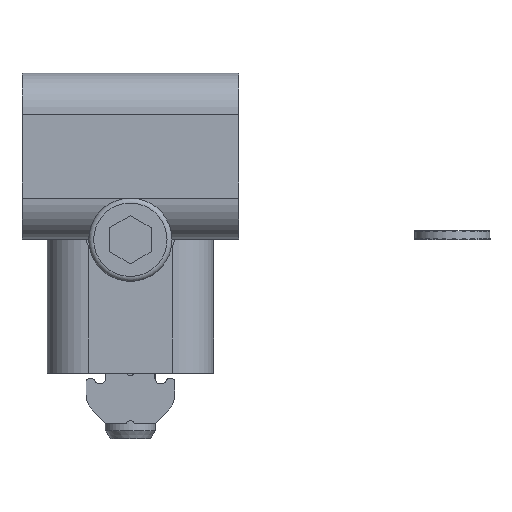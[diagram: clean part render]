
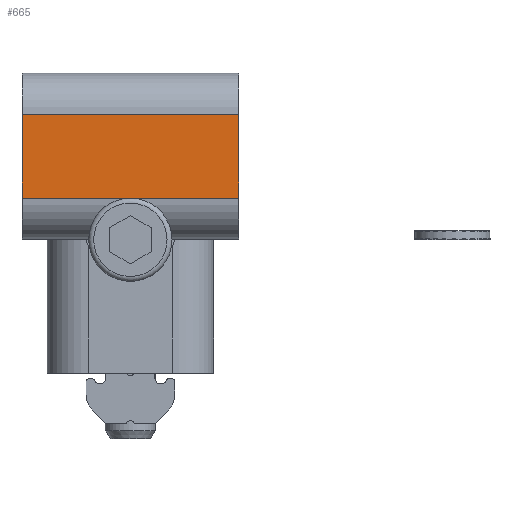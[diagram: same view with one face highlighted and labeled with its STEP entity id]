
A CAD part, left-side view. The second image highlights one B-rep face of the part: STEP entity #665.
In plain terms, the highlighted planar face has unit normal (-1, 0, 0).
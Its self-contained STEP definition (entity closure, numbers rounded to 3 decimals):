
#665 = ADVANCED_FACE( '', ( #1343 ), #1344, .F. );
#1343 = FACE_OUTER_BOUND( '', #2027, .T. );
#1344 = PLANE( '', #2028 );
#2027 = EDGE_LOOP( '', ( #4145, #4146, #4147, #4148 ) );
#2028 = AXIS2_PLACEMENT_3D( '', #4149, #4150, #4151 );
#4145 = ORIENTED_EDGE( '', *, *, #4521, .T. );
#4146 = ORIENTED_EDGE( '', *, *, #4358, .T. );
#4147 = ORIENTED_EDGE( '', *, *, #4929, .F. );
#4148 = ORIENTED_EDGE( '', *, *, #5097, .T. );
#4149 = CARTESIAN_POINT( '', ( -20., 13., 20. ) );
#4150 = DIRECTION( '', ( 1., 0., 0. ) );
#4151 = DIRECTION( '', ( 0., 1., 0. ) );
#4358 = EDGE_CURVE( '', #5314, #5318, #5320, .T. );
#4521 = EDGE_CURVE( '', #5606, #5314, #5607, .T. );
#4929 = EDGE_CURVE( '', #6248, #5318, #6250, .T. );
#5097 = EDGE_CURVE( '', #6248, #5606, #6465, .F. );
#5314 = VERTEX_POINT( '', #6933 );
#5318 = VERTEX_POINT( '', #6938 );
#5320 = LINE( '', #6940, #6941 );
#5606 = VERTEX_POINT( '', #7322 );
#5607 = LINE( '', #7323, #7324 );
#6248 = VERTEX_POINT( '', #8200 );
#6250 = LINE( '', #8202, #8203 );
#6465 = LINE( '', #8498, #8499 );
#6933 = CARTESIAN_POINT( '', ( -20., 13., 5. ) );
#6938 = CARTESIAN_POINT( '', ( -20., -13., 5. ) );
#6940 = CARTESIAN_POINT( '', ( -20., -13., 5. ) );
#6941 = VECTOR( '', #8771, 1000. );
#7322 = CARTESIAN_POINT( '', ( -20., 13., 15. ) );
#7323 = CARTESIAN_POINT( '', ( -20., 13., 20. ) );
#7324 = VECTOR( '', #8969, 1000. );
#8200 = CARTESIAN_POINT( '', ( -20., -13., 15. ) );
#8202 = CARTESIAN_POINT( '', ( -20., -13., 20. ) );
#8203 = VECTOR( '', #9562, 1000. );
#8498 = CARTESIAN_POINT( '', ( -20., 13., 15. ) );
#8499 = VECTOR( '', #9784, 1000. );
#8771 = DIRECTION( '', ( 0., -1., 0. ) );
#8969 = DIRECTION( '', ( 0., 0., -1. ) );
#9562 = DIRECTION( '', ( 0., 0., -1. ) );
#9784 = DIRECTION( '', ( 0., -1., 0. ) );
